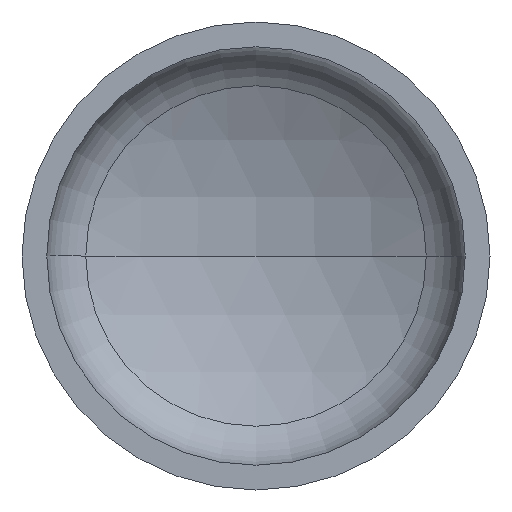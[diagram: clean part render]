
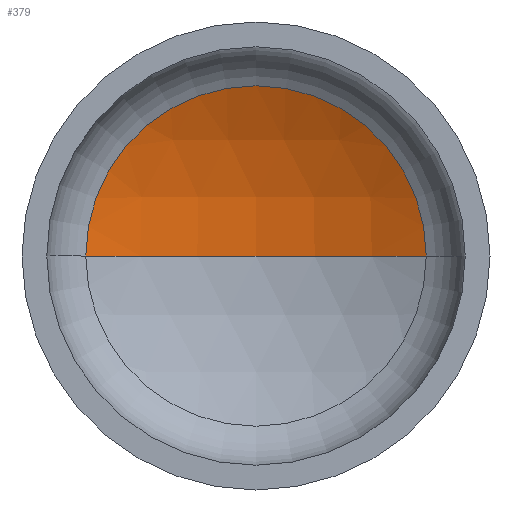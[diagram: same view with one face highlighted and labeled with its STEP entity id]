
A CAD part, front view. The second image highlights one B-rep face of the part: STEP entity #379.
In plain terms, the highlighted spherical face has radius 1360 mm.
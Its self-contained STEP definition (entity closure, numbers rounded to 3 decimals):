
#3 = ORIENTED_EDGE ( 'NONE', *, *, #20, .T. ) ;
#20 = EDGE_CURVE ( 'NONE', #405, #369, #265, .T. ) ;
#25 = AXIS2_PLACEMENT_3D ( 'NONE', #352, #175, #380 ) ;
#40 = DIRECTION ( 'NONE',  ( -1., 0., 0. ) ) ;
#53 = CARTESIAN_POINT ( 'NONE',  ( 0., 331.588, 0. ) ) ;
#56 = AXIS2_PLACEMENT_3D ( 'NONE', #321, #173, #40 ) ;
#113 = CARTESIAN_POINT ( 'NONE',  ( -618.182, 331.588, 0. ) ) ;
#148 = CARTESIAN_POINT ( 'NONE',  ( 618.182, 331.588, 0. ) ) ;
#164 = FACE_OUTER_BOUND ( 'NONE', #354, .T. ) ;
#173 = DIRECTION ( 'NONE',  ( 0., 0., -1. ) ) ;
#175 = DIRECTION ( 'NONE',  ( 0., 0., -1. ) ) ;
#204 = CARTESIAN_POINT ( 'NONE',  ( 0., 480.204, 0. ) ) ;
#207 = AXIS2_PLACEMENT_3D ( 'NONE', #53, #237, #228 ) ;
#209 = DIRECTION ( 'NONE',  ( 0., 0., 1. ) ) ;
#228 = DIRECTION ( 'NONE',  ( 1., 0., 0. ) ) ;
#235 = ORIENTED_EDGE ( 'NONE', *, *, #385, .T. ) ;
#237 = DIRECTION ( 'NONE',  ( 0., -1., 0. ) ) ;
#265 = CIRCLE ( 'NONE', #207, 618.182 ) ;
#272 = ORIENTED_EDGE ( 'NONE', *, *, #366, .F. ) ;
#277 = VERTEX_POINT ( 'NONE', #204 ) ;
#313 = CIRCLE ( 'NONE', #25, 1360. ) ;
#321 = CARTESIAN_POINT ( 'NONE',  ( 0., -879.796, 0. ) ) ;
#325 = SPHERICAL_SURFACE ( 'NONE', #56, 1360. ) ;
#352 = CARTESIAN_POINT ( 'NONE',  ( 0., -879.796, 0. ) ) ;
#354 = EDGE_LOOP ( 'NONE', ( #272, #235, #3 ) ) ;
#366 = EDGE_CURVE ( 'NONE', #277, #369, #394, .T. ) ;
#369 = VERTEX_POINT ( 'NONE', #113 ) ;
#378 = CARTESIAN_POINT ( 'NONE',  ( 0., -879.796, 0. ) ) ;
#379 = ADVANCED_FACE ( 'NONE', ( #164 ), #325, .F. ) ;
#380 = DIRECTION ( 'NONE',  ( -1., 0., 0. ) ) ;
#385 = EDGE_CURVE ( 'NONE', #277, #405, #313, .T. ) ;
#389 = AXIS2_PLACEMENT_3D ( 'NONE', #378, #209, #403 ) ;
#394 = CIRCLE ( 'NONE', #389, 1360. ) ;
#403 = DIRECTION ( 'NONE',  ( 1., 0., 0. ) ) ;
#405 = VERTEX_POINT ( 'NONE', #148 ) ;
